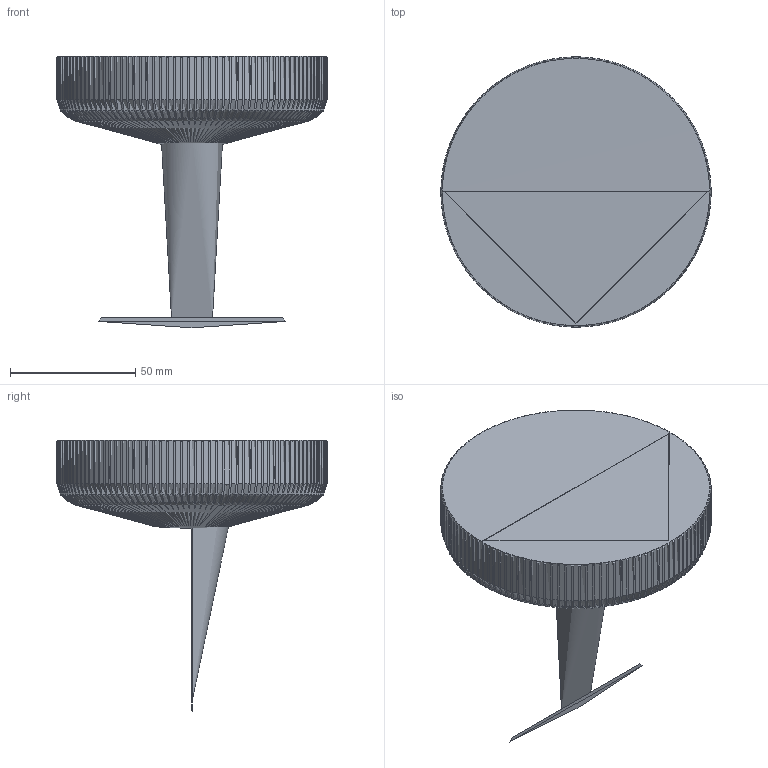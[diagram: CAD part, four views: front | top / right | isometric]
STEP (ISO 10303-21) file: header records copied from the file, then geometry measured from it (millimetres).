
FILE_DESCRIPTION(/* description */ (''),/* implementation_level */ '2;1');
FILE_NAME(/* name */ 'Ripple champagne saucer_3D',/* time_stamp */ '2023-11-22T10:53:13+01:00',/* author */ (''),/* organization */ (''),/* preprocessor_version */ 'ST-DEVELOPER v16.5',/* originating_system */ 'Rhino 7.34',/* authorisation */ '');
FILE_SCHEMA (('CONFIG_CONTROL_DESIGN'));
Products named in the file (1): Document
Bounding box: 108.02 x 108.02 x 108.61 mm (x, y, z)
Topology: 1 solids, 5 shells, 983 faces, 3161 edges, 2177 vertices
Faces by surface type: bspline 859, cylinder 124
Full cylindrical faces by diameter (mm): 2 x1
Entity records: 153165 total; most frequent: CARTESIAN_POINT 135847, ORIENTED_EDGE 6304, EDGE_CURVE 3152, B_SPLINE_CURVE_WITH_KNOTS 2278, VERTEX_POINT 2171, ADVANCED_FACE 983, FACE_OUTER_BOUND 983, EDGE_LOOP 983
